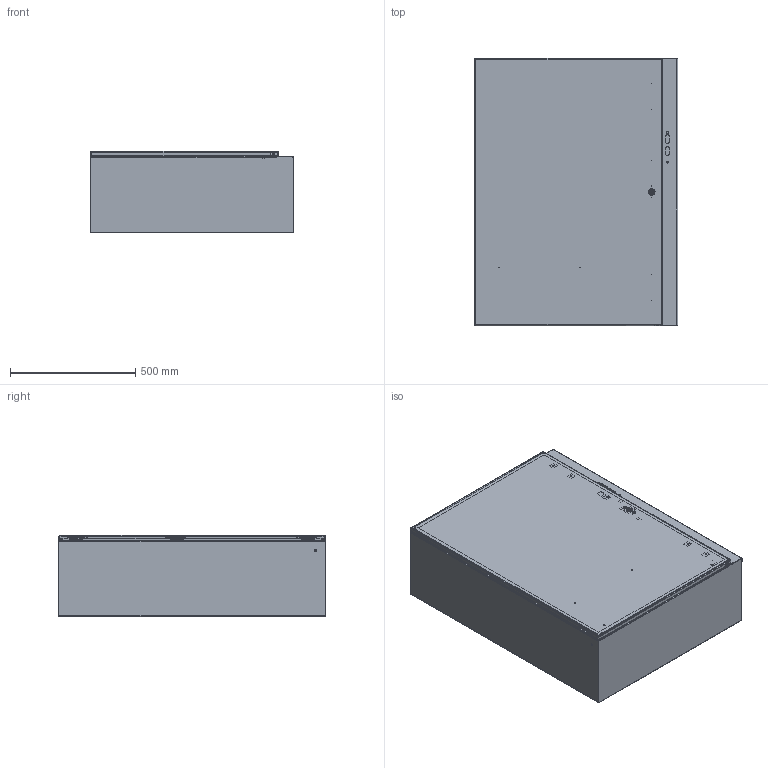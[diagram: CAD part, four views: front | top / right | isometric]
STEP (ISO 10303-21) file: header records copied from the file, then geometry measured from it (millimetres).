
FILE_DESCRIPTION (( 'STEP AP203' ), '1' );
FILE_NAME ('cdsc423212lg.STEP', '2012-05-22T12:39:10', ( 'User' ), ( 'Pentair Inc' ), 'SwSTEP 2.0', 'SolidWorks 2010', '' );
FILE_SCHEMA (( 'CONFIG_CONTROL_DESIGN' ));
Products named in the file (45): cdsc423212lg; 89083099; 87756329; 64424003; 64424004; 23271001_After Weld; 99401225_Config-Drawing; 87543027; 89076399; 89076193; 89056623; 87929507; 87929767; 87929769_Installed on Pin; 87938400_assy; 87938422_fip; 87938379; 99401225; 87938435; 23101001; 51123001_Post weld; 87931362_87931362; 87415913_Locked; 64157001_Locked; 87540678; 64210001; 64202001; 64208001; 64205001; 87541995; 87541994_Installed Height; 87927840_87927840; 64212005; 22101012; 99401329_99401329; 64144001; 99411918; 64206004; 64207001; 64103001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
Assembly tree (82 placements, depth 5):
  cdsc423212lg
    89076399  x3
      89056623
      89076193
    87543027  x3
    87929507  x3
      87929769_Installed on Pin
      87929767
    89083099
      23271001_After Weld  x6
      64424003
      87756329
      64424004
      99401225_Config-Drawing
    87938400_assy
      87932903  x7
      64138001  x2
      87562939_87562939
      87938422_fip
        99401225
        87938435
        87931362_87931362  x9
        87938379
        51123001_Post weld
        23101001
      87555298
      87415913_Locked
        64157001_Locked
          64208001
          64210001
          87927840_87927840
          64202001
          87541994_Installed Height
          87540678
          64205001  x2
          87541995
        22101012  x2
        64207001  x2
        64103001  x5
        99401329_99401329  x2
        64212005
        64206004  x2
        99411834  x3
        99411918  x2
        64144001
Bounding box: 811.53 x 1067.19 x 325.5 mm (x, y, z)
Volume: 5873085 mm3; surface area: 6302725.8 mm2
Topology: 80 solids, 80 shells, 4804 faces, 12294 edges, 7606 vertices
Faces by surface type: plane 2018, cylinder 1321, bspline 1056, torus 191, cone 181, sphere 37
Entity records: 99255 total; most frequent: CARTESIAN_POINT 37139, ORIENTED_EDGE 12400, DIRECTION 10632, EDGE_CURVE 6200, VERTEX_POINT 3905, AXIS2_PLACEMENT_3D 3600, LINE 3432, VECTOR 3432
